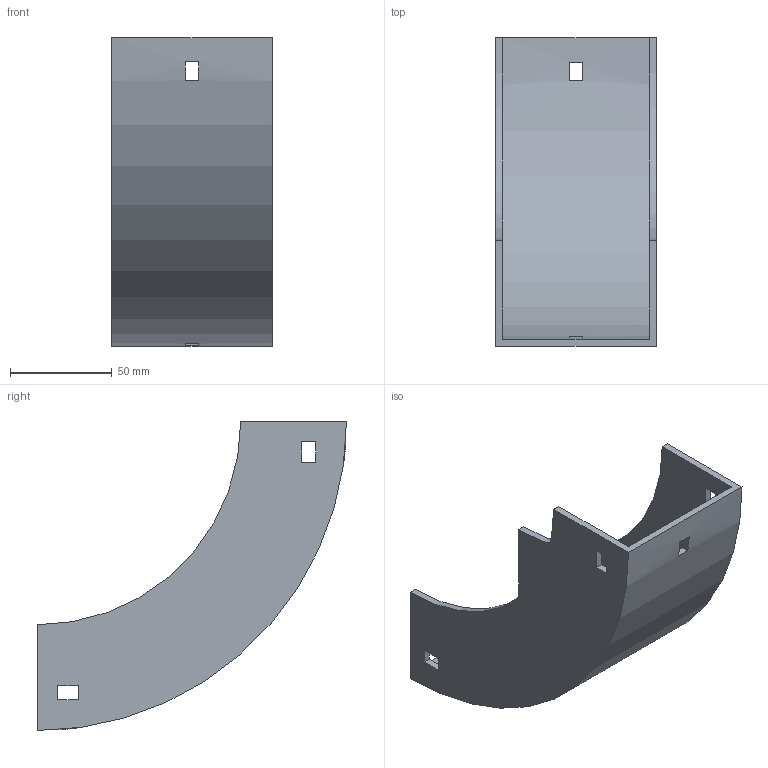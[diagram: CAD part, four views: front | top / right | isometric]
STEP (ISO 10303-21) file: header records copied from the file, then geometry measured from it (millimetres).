
FILE_DESCRIPTION (( 'STEP AP214' ), '1' );
FILE_NAME ('30B1B075.step', '2025-02-21T09:49:24', ( '' ), ( '' ), 'SwSTEP 2.0', 'SolidWorks 2023', '' );
FILE_SCHEMA (( 'AUTOMOTIVE_DESIGN' ));
Length unit declared in the file: millimetre
Products named in the file (1): 30B1B075
Bounding box: 79 x 152 x 152 mm (x, y, z)
Volume: 130126 mm3; surface area: 77402.9 mm2
Topology: 1 solids, 1 shells, 34 faces, 96 edges, 64 vertices
Faces by surface type: plane 30, cylinder 4
Entity records: 1143 total; most frequent: CARTESIAN_POINT 195, ORIENTED_EDGE 192, DIRECTION 182, EDGE_CURVE 96, LINE 80, VECTOR 80, VERTEX_POINT 64, AXIS2_PLACEMENT_3D 51
